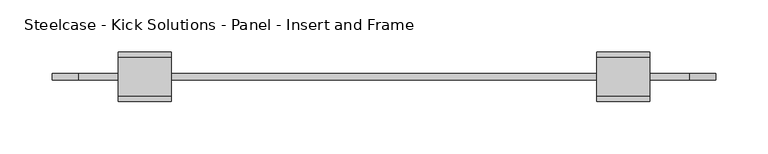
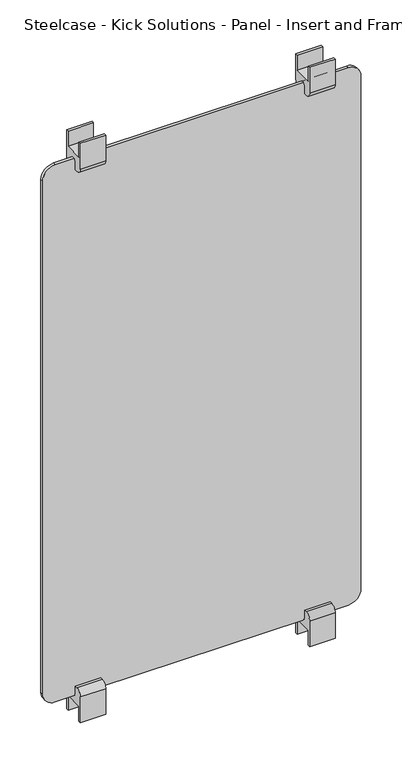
"""IFC4 building model written with IfcOpenShell, lengths in millimetres: furniture geometry, Steelcase - Kick Solutions - Panel - Insert and Frame : Laminate - 54H x 30W."""

from ifc_helpers import new_model, si_unit, point, frame, frame_2d, origin, place, context, project, spatial, polyline, circle_curve, trimmed, segment, composite_curve, outline, extrude, source, transform, mapped, element, save


def steelcase_kick_solutions_panel_insert_and_frame_6727928f(model_context):
    return source(origin(), model_context, "Body", "SweptSolid", [
        extrude(outline(composite_curve([segment(polyline([(5.3821989, 1346.2), (10.144699, 1346.2), (10.144699, 1291.513221)]), True, "CONTINUOUS"), segment(trimmed(circle_curve(frame_2d((-1.6831687, 1291.513221)), 11.8278677), [point((10.144699, 1291.513221))], [point((-1.6831687, 1279.6853533))], False, "CARTESIAN"), True, "CONTINUOUS"), segment(polyline([(-1.6831687, 1279.6853533), (-7.3178012, 1279.6853533), (-7.3178012, 1295.0857521)]), True, "CONTINUOUS"), segment(trimmed(circle_curve(frame_2d((-13.667801, 1295.0857521)), 6.3499998), [point((-7.3178012, 1295.0857521))], [point((-20.0178007, 1295.0857521))], True, "CARTESIAN"), True, "CONTINUOUS"), segment(polyline([(-20.0178007, 1295.0857521), (-20.0178007, 1279.6853527), (-25.2074988, 1279.6853527)]), True, "CONTINUOUS"), segment(trimmed(circle_curve(frame_2d((-25.2074988, 1291.9581549)), 12.2728022), [point((-25.2074988, 1279.6853527))], [point((-37.480301, 1291.9581549))], False, "CARTESIAN"), True, "CONTINUOUS"), segment(polyline([(-37.480301, 1291.9581549), (-37.480301, 1346.2), (-32.7177988, 1346.2), (-32.7177988, 1314.4499758), (5.3821989, 1314.4499758), (5.3821989, 1346.2)]), True, "CONTINUOUS")], self_intersect=False)), frame((585.1148583, 0.0, 0.0), z_axis=(1.0, 0.0, 0.0), x_axis=(0.0, 1.0, 0.0)), (0.0, 0.0, 1.0), 50.8),
        extrude(outline(composite_curve([segment(polyline([(5.3821989, 120.6499576), (5.3821989, 152.3999815), (-32.7177988, 152.3999815), (-32.7177988, 120.6499576), (-37.480301, 120.6499576), (-37.480301, 174.8918024)]), True, "CONTINUOUS"), segment(trimmed(circle_curve(frame_2d((-25.2074988, 174.8918024)), 12.2728022), [point((-37.480301, 174.8918024))], [point((-25.2074988, 187.1646046))], False, "CARTESIAN"), True, "CONTINUOUS"), segment(polyline([(-25.2074988, 187.1646046), (-20.0178007, 187.1646046), (-20.0178007, 171.7642058)]), True, "CONTINUOUS"), segment(trimmed(circle_curve(frame_2d((-13.667801, 171.7642058)), 6.3499998), [point((-20.0178007, 171.7642058))], [point((-7.3178012, 171.7642058))], True, "CARTESIAN"), True, "CONTINUOUS"), segment(polyline([(-7.3178012, 171.7642058), (-7.3178012, 187.1646046), (-1.6831687, 187.1646046)]), True, "CONTINUOUS"), segment(trimmed(circle_curve(frame_2d((-1.6831687, 175.3367369)), 11.8278677), [point((-1.6831687, 187.1646046))], [point((10.144699, 175.3367369))], False, "CARTESIAN"), True, "CONTINUOUS"), segment(polyline([(10.144699, 175.3367369), (10.144699, 120.6499576), (5.3821989, 120.6499576)]), True, "CONTINUOUS")], self_intersect=False)), frame((585.1148583, 0.0, 0.0), z_axis=(1.0, 0.0, 0.0), x_axis=(0.0, 1.0, 0.0)), (0.0, 0.0, 1.0), 50.8),
        extrude(outline(composite_curve([segment(polyline([(5.3821989, 1346.2), (10.144699, 1346.2), (10.144699, 1291.5132204)]), True, "CONTINUOUS"), segment(trimmed(circle_curve(frame_2d((-1.6831684, 1291.5132204)), 11.8278674), [point((10.144699, 1291.5132204))], [point((-1.6831684, 1279.685353))], False, "CARTESIAN"), True, "CONTINUOUS"), segment(polyline([(-1.6831684, 1279.685353), (-7.3178009, 1279.685353), (-7.3178009, 1295.0857521)]), True, "CONTINUOUS"), segment(trimmed(circle_curve(frame_2d((-13.667801, 1295.0857521)), 6.3500001), [point((-7.3178009, 1295.0857521))], [point((-20.017801, 1295.0857521))], True, "CARTESIAN"), True, "CONTINUOUS"), segment(polyline([(-20.017801, 1295.0857521), (-20.017801, 1279.685353), (-25.2074991, 1279.685353)]), True, "CONTINUOUS"), segment(trimmed(circle_curve(frame_2d((-25.2074991, 1291.9581549)), 12.2728019), [point((-25.2074991, 1279.685353))], [point((-37.480301, 1291.9581549))], False, "CARTESIAN"), True, "CONTINUOUS"), segment(polyline([(-37.480301, 1291.9581549), (-37.480301, 1346.2), (-32.7177988, 1346.2), (-32.7177988, 1314.4499758), (5.3821989, 1314.4499758), (5.3821989, 1346.2)]), True, "CONTINUOUS")], self_intersect=False)), frame((126.0851417, 0.0, 0.0), z_axis=(1.0, 0.0, 0.0), x_axis=(0.0, 1.0, 0.0)), (0.0, 0.0, 1.0), 50.8),
        extrude(outline(composite_curve([segment(polyline([(5.3821989, 120.6499576), (5.3821989, 152.3999818), (-32.7177988, 152.3999818), (-32.7177988, 120.6499576), (-37.480301, 120.6499576), (-37.480301, 174.8918027)]), True, "CONTINUOUS"), segment(trimmed(circle_curve(frame_2d((-25.2074991, 174.8918027)), 12.2728019), [point((-37.480301, 174.8918027))], [point((-25.2074991, 187.1646046))], False, "CARTESIAN"), True, "CONTINUOUS"), segment(polyline([(-25.2074991, 187.1646046), (-20.017801, 187.1646046), (-20.017801, 171.7642055)]), True, "CONTINUOUS"), segment(trimmed(circle_curve(frame_2d((-13.667801, 171.7642055)), 6.3500001), [point((-20.017801, 171.7642055))], [point((-7.3178009, 171.7642055))], True, "CARTESIAN"), True, "CONTINUOUS"), segment(polyline([(-7.3178009, 171.7642055), (-7.3178009, 187.1646041), (-1.6831684, 187.1646041)]), True, "CONTINUOUS"), segment(trimmed(circle_curve(frame_2d((-1.6831684, 175.3367366)), 11.8278674), [point((-1.6831684, 187.1646041))], [point((10.144699, 175.3367366))], False, "CARTESIAN"), True, "CONTINUOUS"), segment(polyline([(10.144699, 175.3367366), (10.144699, 120.6499576), (5.3821989, 120.6499576)]), True, "CONTINUOUS")], self_intersect=False)), frame((126.0851417, 0.0, 0.0), z_axis=(1.0, 0.0, 0.0), x_axis=(0.0, 1.0, 0.0)), (0.0, 0.0, 1.0), 50.8),
        extrude(outline(composite_curve([segment(polyline([(1301.7499516, 674.0148583), (1301.7499516, 87.9851417)]), True, "CONTINUOUS"), segment(trimmed(circle_curve(frame_2d((1276.3499516, 87.9851417)), 25.4), [point((1301.7499516, 87.9851417))], [point((1276.3499516, 62.5851417))], False, "CARTESIAN"), True, "CONTINUOUS"), segment(polyline([(1276.3499516, 62.5851417), (190.5000061, 62.5851417)]), True, "CONTINUOUS"), segment(trimmed(circle_curve(frame_2d((190.5000061, 87.9851417)), 25.4), [point((190.5000061, 62.5851417))], [point((165.1000061, 87.9851417))], False, "CARTESIAN"), True, "CONTINUOUS"), segment(polyline([(165.1000061, 87.9851417), (165.1000061, 674.0148583)]), True, "CONTINUOUS"), segment(trimmed(circle_curve(frame_2d((190.5000061, 674.0148583)), 25.4), [point((165.1000061, 674.0148583))], [point((190.5000061, 699.4148583))], False, "CARTESIAN"), True, "CONTINUOUS"), segment(polyline([(190.5000061, 699.4148583), (1276.3499516, 699.4148583)]), True, "CONTINUOUS"), segment(trimmed(circle_curve(frame_2d((1276.3499516, 674.0148583)), 25.4), [point((1276.3499516, 699.4148583))], [point((1301.7499516, 674.0148583))], False, "CARTESIAN"), True, "CONTINUOUS")], self_intersect=False)), frame((0.0, -16.8428004, 0.0), z_axis=(0.0, 1.0, 0.0), x_axis=(0.0, 0.0, 1.0)), (0.0, 0.0, 1.0), 6.3499985),
    ])


if __name__ == "__main__":
    model = new_model("IFC4")
    model_context = context("Model", 3, world=origin())
    ifc_project = project(units=[si_unit("LENGTHUNIT", "METRE", prefix="MILLI")], contexts=[model_context])
    site = spatial("IfcSite", under=ifc_project)
    building = spatial("IfcBuilding", under=site)
    placement = place(None, origin())
    steelcase_kick_solutions_panel_insert_and_frame_shape = steelcase_kick_solutions_panel_insert_and_frame_6727928f(model_context)
    element("IfcFurniture", 1, ObjectType="Steelcase - Kick Solutions - Panel - Insert and Frame : Laminate - 54H x 30W", at=placement, inside=building, context=model_context, shape_type="MappedRepresentation", body=[
        mapped(steelcase_kick_solutions_panel_insert_and_frame_shape, transform((0.0, 0.0, 0.0), x_axis=(1.0, 0.0, 0.0), y_axis=(0.0, 1.0, 0.0), z_axis=(0.0, 0.0, 1.0))),
    ])
    save(model, "model.ifc")
